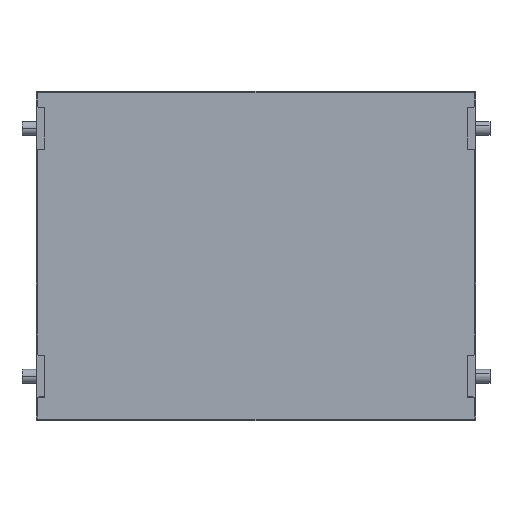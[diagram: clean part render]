
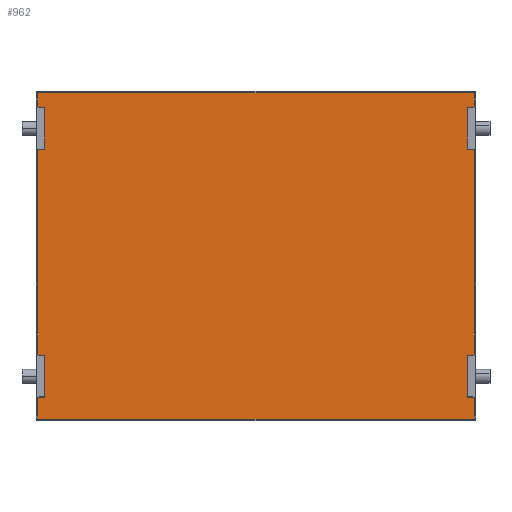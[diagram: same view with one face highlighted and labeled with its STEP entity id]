
A CAD part, top view. The second image highlights one B-rep face of the part: STEP entity #962.
In plain terms, the highlighted planar face has unit normal (0, 0, 1).
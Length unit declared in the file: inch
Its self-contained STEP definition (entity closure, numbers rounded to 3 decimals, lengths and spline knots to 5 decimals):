
#30 = FACE_OUTER_BOUND ( 'NONE', #1738, .T. ) ;
#208 = ORIENTED_EDGE ( 'NONE', *, *, #1519, .T. ) ;
#237 = ORIENTED_EDGE ( 'NONE', *, *, #1529, .T. ) ;
#269 = ORIENTED_EDGE ( 'NONE', *, *, #1520, .T. ) ;
#386 = ORIENTED_EDGE ( 'NONE', *, *, #1538, .T. ) ;
#501 = LINE ( 'NONE', #656, #512 ) ;
#507 = LINE ( 'NONE', #653, #511 ) ;
#511 = VECTOR ( 'NONE', #651, 39.37008 ) ;
#512 = VECTOR ( 'NONE', #655, 39.37008 ) ;
#554 = VECTOR ( 'NONE', #579, 39.37008 ) ;
#556 = VECTOR ( 'NONE', #641, 39.37008 ) ;
#557 = LINE ( 'NONE', #646, #556 ) ;
#560 = LINE ( 'NONE', #702, #554 ) ;
#579 = DIRECTION ( 'NONE',  ( -1., 0., 0. ) ) ;
#641 = DIRECTION ( 'NONE',  ( 0., 1., 0. ) ) ;
#646 = CARTESIAN_POINT ( 'NONE',  ( 5.46982, -3.55649, -0.69 ) ) ;
#651 = DIRECTION ( 'NONE',  ( 1., 0., 0. ) ) ;
#653 = CARTESIAN_POINT ( 'NONE',  ( -10.38018, -3.55649, -0.69 ) ) ;
#655 = DIRECTION ( 'NONE',  ( 0., -1., 0. ) ) ;
#656 = CARTESIAN_POINT ( 'NONE',  ( -10.38018, -3.55649, -0.69 ) ) ;
#702 = CARTESIAN_POINT ( 'NONE',  ( -10.38018, 8.28351, -0.69 ) ) ;
#790 = CARTESIAN_POINT ( 'NONE',  ( -10.38018, -3.55649, -0.69 ) ) ;
#857 = CARTESIAN_POINT ( 'NONE',  ( 5.46982, 8.28351, -0.69 ) ) ;
#882 = CARTESIAN_POINT ( 'NONE',  ( -10.38018, 8.28351, -0.69 ) ) ;
#885 = CARTESIAN_POINT ( 'NONE',  ( 5.46982, -3.55649, -0.69 ) ) ;
#962 = ADVANCED_FACE ( 'NONE', ( #30 ), #1381, .F. ) ;
#1349 = DIRECTION ( 'NONE',  ( -1., 0., 0. ) ) ;
#1357 = CARTESIAN_POINT ( 'NONE',  ( -10.38018, 8.28351, -0.69 ) ) ;
#1381 = PLANE ( 'NONE',  #1505 ) ;
#1403 = DIRECTION ( 'NONE',  ( 0., 0., -1. ) ) ;
#1505 = AXIS2_PLACEMENT_3D ( 'NONE', #1357, #1403, #1349 ) ;
#1519 = EDGE_CURVE ( 'NONE', #1731, #1682, #507, .T. ) ;
#1520 = EDGE_CURVE ( 'NONE', #1680, #1731, #501, .T. ) ;
#1529 = EDGE_CURVE ( 'NONE', #1682, #1656, #557, .T. ) ;
#1538 = EDGE_CURVE ( 'NONE', #1656, #1680, #560, .T. ) ;
#1656 = VERTEX_POINT ( 'NONE', #857 ) ;
#1680 = VERTEX_POINT ( 'NONE', #882 ) ;
#1682 = VERTEX_POINT ( 'NONE', #885 ) ;
#1731 = VERTEX_POINT ( 'NONE', #790 ) ;
#1738 = EDGE_LOOP ( 'NONE', ( #269, #208, #237, #386 ) ) ;
